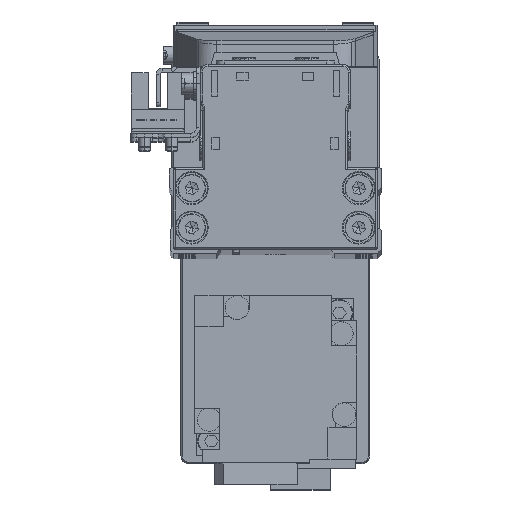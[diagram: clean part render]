
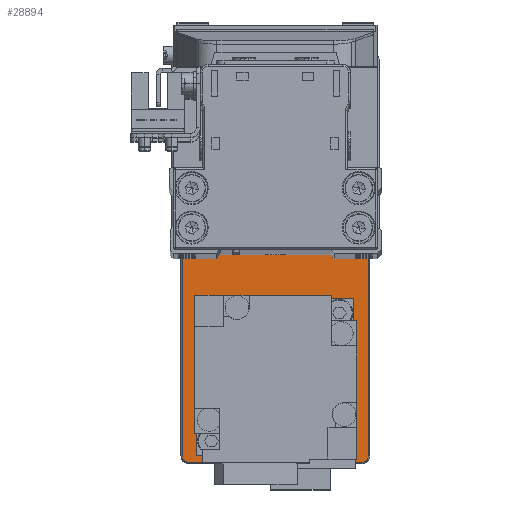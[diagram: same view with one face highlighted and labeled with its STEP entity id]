
A CAD part, top view. The second image highlights one B-rep face of the part: STEP entity #28894.
In plain terms, the highlighted planar face has unit normal (0, 0, 1).
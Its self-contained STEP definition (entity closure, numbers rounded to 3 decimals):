
#565 = FACE_BOUND ( 'NONE', #29232, .T. ) ;
#1496 = CARTESIAN_POINT ( 'NONE',  ( -51.7, 22., 5. ) ) ;
#2003 = ORIENTED_EDGE ( 'NONE', *, *, #12458, .T. ) ;
#2070 = CARTESIAN_POINT ( 'NONE',  ( 50., 23.7, 5. ) ) ;
#2081 = ORIENTED_EDGE ( 'NONE', *, *, #32868, .T. ) ;
#2531 = LINE ( 'NONE', #15038, #16318 ) ;
#2941 = EDGE_CURVE ( 'NONE', #29279, #34097, #40212, .T. ) ;
#3434 = CARTESIAN_POINT ( 'NONE',  ( -50., 22., 5. ) ) ;
#3916 = DIRECTION ( 'NONE',  ( 0., 0., -1. ) ) ;
#4641 = VERTEX_POINT ( 'NONE', #25377 ) ;
#4895 = VERTEX_POINT ( 'NONE', #23915 ) ;
#5091 = AXIS2_PLACEMENT_3D ( 'NONE', #26992, #39468, #11424 ) ;
#5135 = CARTESIAN_POINT ( 'NONE',  ( 50., -23.7, 5. ) ) ;
#5925 = DIRECTION ( 'NONE',  ( 0., 0., -1. ) ) ;
#6034 = ORIENTED_EDGE ( 'NONE', *, *, #12177, .T. ) ;
#6056 = EDGE_CURVE ( 'NONE', #20190, #29279, #27604, .T. ) ;
#6138 = ORIENTED_EDGE ( 'NONE', *, *, #2941, .T. ) ;
#6231 = AXIS2_PLACEMENT_3D ( 'NONE', #9991, #22477, #34964 ) ;
#6902 = DIRECTION ( 'NONE',  ( 1., 0., 0. ) ) ;
#7151 = DIRECTION ( 'NONE',  ( 0., 0., 1. ) ) ;
#7290 = ORIENTED_EDGE ( 'NONE', *, *, #6056, .T. ) ;
#7585 = DIRECTION ( 'NONE',  ( 0., 0., 1. ) ) ;
#7739 = DIRECTION ( 'NONE',  ( 1., 0., 0. ) ) ;
#7866 = CARTESIAN_POINT ( 'NONE',  ( 17.2, 0., 5. ) ) ;
#8287 = EDGE_CURVE ( 'NONE', #4641, #31276, #11372, .T. ) ;
#8974 = AXIS2_PLACEMENT_3D ( 'NONE', #33971, #5925, #18411 ) ;
#9899 = EDGE_LOOP ( 'NONE', ( #2081, #17177 ) ) ;
#9991 = CARTESIAN_POINT ( 'NONE',  ( 0., 0., 5. ) ) ;
#10407 = EDGE_LOOP ( 'NONE', ( #2003, #10771, #7290, #6138, #36905, #21017, #34237, #31616 ) ) ;
#10771 = ORIENTED_EDGE ( 'NONE', *, *, #30151, .T. ) ;
#11181 = CIRCLE ( 'NONE', #34031, 12.8 ) ;
#11372 = CIRCLE ( 'NONE', #34245, 10.3 ) ;
#11424 = DIRECTION ( 'NONE',  ( 1., 0., 0. ) ) ;
#11704 = DIRECTION ( 'NONE',  ( 0., 0., -1. ) ) ;
#12046 = DIRECTION ( 'NONE',  ( 0., 1., 0. ) ) ;
#12145 = EDGE_CURVE ( 'NONE', #34097, #17966, #14303, .T. ) ;
#12177 = EDGE_CURVE ( 'NONE', #34649, #18277, #22764, .T. ) ;
#12458 = EDGE_CURVE ( 'NONE', #4895, #18776, #22458, .T. ) ;
#13070 = FACE_BOUND ( 'NONE', #9899, .T. ) ;
#14303 = LINE ( 'NONE', #26799, #29943 ) ;
#15038 = CARTESIAN_POINT ( 'NONE',  ( -51.7, -22., 5. ) ) ;
#15385 = CARTESIAN_POINT ( 'NONE',  ( -17.7, 0., 5. ) ) ;
#15697 = CARTESIAN_POINT ( 'NONE',  ( 42.8, 0., 5. ) ) ;
#15930 = DIRECTION ( 'NONE',  ( 0., 0., 1. ) ) ;
#16318 = VECTOR ( 'NONE', #27517, 1000. ) ;
#16403 = DIRECTION ( 'NONE',  ( 1., 0., 0. ) ) ;
#17177 = ORIENTED_EDGE ( 'NONE', *, *, #8287, .T. ) ;
#17308 = AXIS2_PLACEMENT_3D ( 'NONE', #23298, #35781, #7739 ) ;
#17369 = CARTESIAN_POINT ( 'NONE',  ( -51.7, -22., 5. ) ) ;
#17922 = VERTEX_POINT ( 'NONE', #17369 ) ;
#17966 = VERTEX_POINT ( 'NONE', #23927 ) ;
#18277 = VERTEX_POINT ( 'NONE', #7866 ) ;
#18411 = DIRECTION ( 'NONE',  ( 1., 0., 0. ) ) ;
#18776 = VERTEX_POINT ( 'NONE', #5135 ) ;
#19644 = DIRECTION ( 'NONE',  ( 1., 0., 0. ) ) ;
#20050 = CIRCLE ( 'NONE', #25270, 1.7 ) ;
#20083 = DIRECTION ( 'NONE',  ( 1., 0., 0. ) ) ;
#20190 = VERTEX_POINT ( 'NONE', #37267 ) ;
#21017 = ORIENTED_EDGE ( 'NONE', *, *, #28869, .T. ) ;
#22458 = LINE ( 'NONE', #34946, #30600 ) ;
#22477 = DIRECTION ( 'NONE',  ( 0., 0., 1. ) ) ;
#22582 = AXIS2_PLACEMENT_3D ( 'NONE', #35633, #7585, #20083 ) ;
#22764 = CIRCLE ( 'NONE', #5091, 12.8 ) ;
#23045 = CARTESIAN_POINT ( 'NONE',  ( 51.7, 22., 5. ) ) ;
#23298 = CARTESIAN_POINT ( 'NONE',  ( 50., -22., 5. ) ) ;
#23915 = CARTESIAN_POINT ( 'NONE',  ( -50., -23.7, 5. ) ) ;
#23927 = CARTESIAN_POINT ( 'NONE',  ( -50., 23.7, 5. ) ) ;
#24202 = DIRECTION ( 'NONE',  ( 1., 0., 0. ) ) ;
#25270 = AXIS2_PLACEMENT_3D ( 'NONE', #35197, #7151, #19644 ) ;
#25377 = CARTESIAN_POINT ( 'NONE',  ( -38.3, 0., 5. ) ) ;
#25556 = FACE_OUTER_BOUND ( 'NONE', #10407, .T. ) ;
#26647 = CIRCLE ( 'NONE', #8974, 10.3 ) ;
#26799 = CARTESIAN_POINT ( 'NONE',  ( -50., 23.7, 5. ) ) ;
#26992 = CARTESIAN_POINT ( 'NONE',  ( 30., 0., 5. ) ) ;
#27517 = DIRECTION ( 'NONE',  ( 0., -1., 0. ) ) ;
#27604 = LINE ( 'NONE', #40081, #30201 ) ;
#28418 = DIRECTION ( 'NONE',  ( 1., 0., 0. ) ) ;
#28869 = EDGE_CURVE ( 'NONE', #17966, #36620, #31071, .T. ) ;
#28894 = ADVANCED_FACE ( 'NONE', ( #565, #13070, #25556 ), #38031, .T. ) ;
#29232 = EDGE_LOOP ( 'NONE', ( #6034, #38035 ) ) ;
#29279 = VERTEX_POINT ( 'NONE', #23045 ) ;
#29943 = VECTOR ( 'NONE', #39276, 1000. ) ;
#30151 = EDGE_CURVE ( 'NONE', #18776, #20190, #34966, .T. ) ;
#30201 = VECTOR ( 'NONE', #12046, 1000. ) ;
#30600 = VECTOR ( 'NONE', #6902, 1000. ) ;
#31071 = CIRCLE ( 'NONE', #36310, 1.7 ) ;
#31276 = VERTEX_POINT ( 'NONE', #15385 ) ;
#31616 = ORIENTED_EDGE ( 'NONE', *, *, #31857, .T. ) ;
#31857 = EDGE_CURVE ( 'NONE', #17922, #4895, #20050, .T. ) ;
#31965 = CARTESIAN_POINT ( 'NONE',  ( -28., 0., 5. ) ) ;
#32868 = EDGE_CURVE ( 'NONE', #31276, #4641, #26647, .T. ) ;
#33971 = CARTESIAN_POINT ( 'NONE',  ( -28., 0., 5. ) ) ;
#34031 = AXIS2_PLACEMENT_3D ( 'NONE', #39738, #11704, #24202 ) ;
#34097 = VERTEX_POINT ( 'NONE', #2070 ) ;
#34237 = ORIENTED_EDGE ( 'NONE', *, *, #35055, .T. ) ;
#34245 = AXIS2_PLACEMENT_3D ( 'NONE', #31965, #3916, #16403 ) ;
#34649 = VERTEX_POINT ( 'NONE', #15697 ) ;
#34946 = CARTESIAN_POINT ( 'NONE',  ( 50., -23.7, 5. ) ) ;
#34964 = DIRECTION ( 'NONE',  ( 1., 0., 0. ) ) ;
#34966 = CIRCLE ( 'NONE', #17308, 1.7 ) ;
#35055 = EDGE_CURVE ( 'NONE', #36620, #17922, #2531, .T. ) ;
#35197 = CARTESIAN_POINT ( 'NONE',  ( -50., -22., 5. ) ) ;
#35633 = CARTESIAN_POINT ( 'NONE',  ( 50., 22., 5. ) ) ;
#35781 = DIRECTION ( 'NONE',  ( 0., 0., 1. ) ) ;
#36310 = AXIS2_PLACEMENT_3D ( 'NONE', #3434, #15930, #28418 ) ;
#36620 = VERTEX_POINT ( 'NONE', #1496 ) ;
#36905 = ORIENTED_EDGE ( 'NONE', *, *, #12145, .T. ) ;
#37267 = CARTESIAN_POINT ( 'NONE',  ( 51.7, -22., 5. ) ) ;
#38031 = PLANE ( 'NONE',  #6231 ) ;
#38035 = ORIENTED_EDGE ( 'NONE', *, *, #38379, .T. ) ;
#38379 = EDGE_CURVE ( 'NONE', #18277, #34649, #11181, .T. ) ;
#39276 = DIRECTION ( 'NONE',  ( -1., 0., 0. ) ) ;
#39468 = DIRECTION ( 'NONE',  ( 0., 0., -1. ) ) ;
#39738 = CARTESIAN_POINT ( 'NONE',  ( 30., 0., 5. ) ) ;
#40081 = CARTESIAN_POINT ( 'NONE',  ( 51.7, 22., 5. ) ) ;
#40212 = CIRCLE ( 'NONE', #22582, 1.7 ) ;
